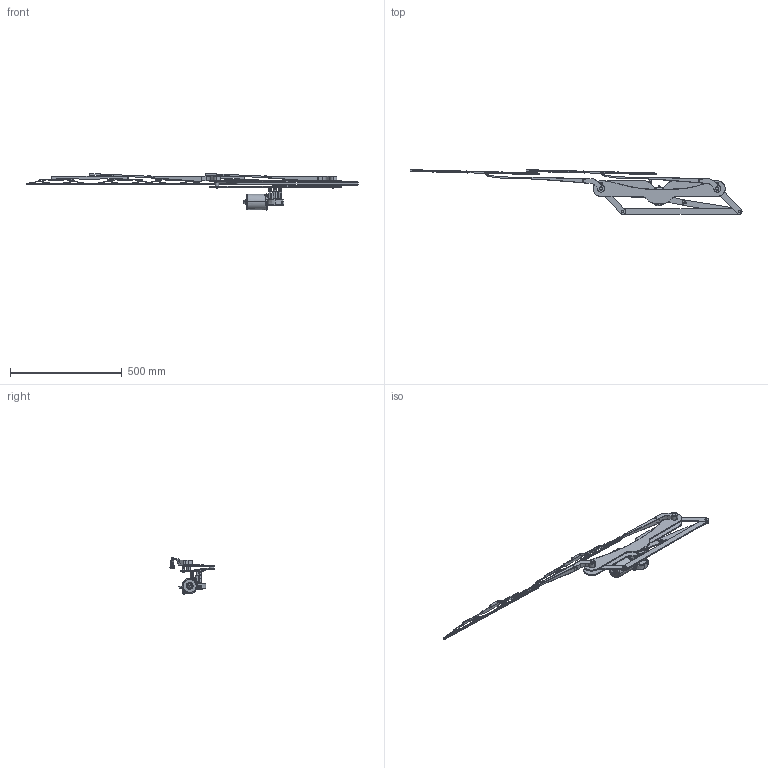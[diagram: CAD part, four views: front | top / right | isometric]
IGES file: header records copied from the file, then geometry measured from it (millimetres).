
Start section: SolidWorks IGES file using analytic representation for surfaces
Global section: file name: E:\Folder\posts\Wiper Mechanism Animation\Wiper Assembly.IGS; native system: SolidWorks 2021; preprocessor: SolidWorks 2021; author: Jainish; date: 220416.114606; units: millimetre
Bounding box: 1483.16 x 200.3 x 161.32 mm (x, y, z)
Surface area: 440632.5 mm2 (no closed solid volume)
Topology: 0 solids, 0 shells, 1707 faces, 18794 edges, 18742 vertices
Faces by surface type: bspline 1315, revolution 392
